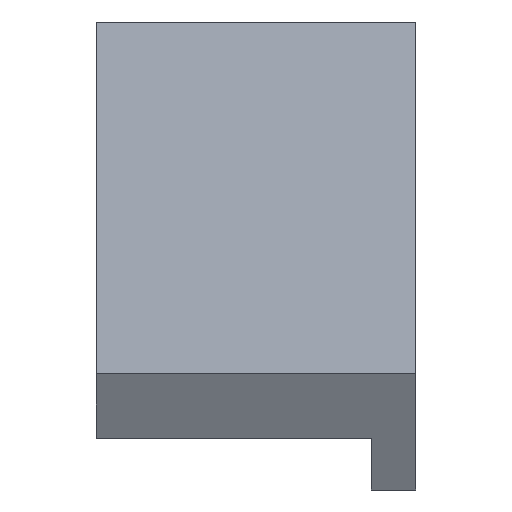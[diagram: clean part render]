
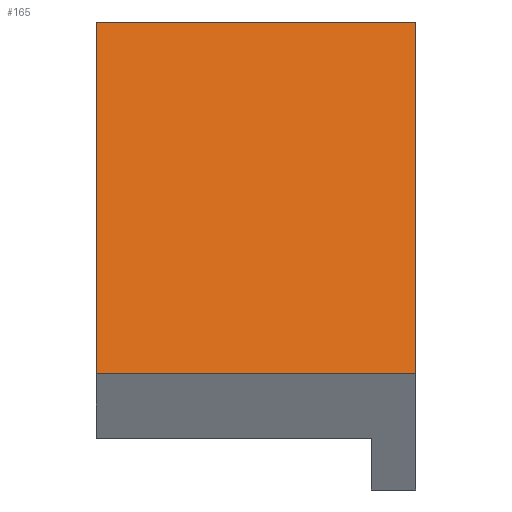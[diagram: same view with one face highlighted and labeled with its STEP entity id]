
A CAD part, front view. The second image highlights one B-rep face of the part: STEP entity #165.
In plain terms, the highlighted planar face has unit normal (0, -0.985, 0.174).
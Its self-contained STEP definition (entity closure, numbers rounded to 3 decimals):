
#27=CARTESIAN_POINT('',(-102.,-485.87,496.202));
#28=VERTEX_POINT('',#27);
#29=CARTESIAN_POINT('',(-102.,-481.702,519.838));
#30=VERTEX_POINT('',#29);
#31=CARTESIAN_POINT('',(-102.,-485.87,496.202));
#32=DIRECTION('',(0.,0.174,0.985));
#33=VECTOR('',#32,1.);
#34=LINE('',#31,#33);
#35=EDGE_CURVE('',#28,#30,#34,.T.);
#88=CARTESIAN_POINT('',(-123.5,-485.87,496.202));
#89=VERTEX_POINT('',#88);
#96=CARTESIAN_POINT('',(-123.5,-481.702,519.838));
#97=VERTEX_POINT('',#96);
#98=CARTESIAN_POINT('',(-123.5,-481.702,519.838));
#99=DIRECTION('',(0.,-0.174,-0.985));
#100=VECTOR('',#99,1.);
#101=LINE('',#98,#100);
#102=EDGE_CURVE('',#97,#89,#101,.T.);
#144=CARTESIAN_POINT('',(-123.5,-485.87,496.202));
#145=DIRECTION('',(0.0,-0.985,0.174));
#146=DIRECTION('',(1.0,0.0,0.0));
#147=AXIS2_PLACEMENT_3D('',#144,#145,#146);
#148=PLANE('',#147);
#149=CARTESIAN_POINT('',(-123.5,-485.87,496.202));
#150=DIRECTION('',(1.0,0.0,0.0));
#151=VECTOR('',#150,1.);
#152=LINE('',#149,#151);
#153=EDGE_CURVE('',#89,#28,#152,.T.);
#154=ORIENTED_EDGE('',*,*,#153,.T.);
#155=ORIENTED_EDGE('',*,*,#35,.T.);
#156=CARTESIAN_POINT('',(-102.,-481.702,519.838));
#157=DIRECTION('',(-1.0,0.,0.));
#158=VECTOR('',#157,1.);
#159=LINE('',#156,#158);
#160=EDGE_CURVE('',#30,#97,#159,.T.);
#161=ORIENTED_EDGE('',*,*,#160,.T.);
#162=ORIENTED_EDGE('',*,*,#102,.T.);
#163=EDGE_LOOP('',(#154,#155,#161,#162));
#164=FACE_BOUND('',#163,.T.);
#165=ADVANCED_FACE('',(#164),#148,.T.);
